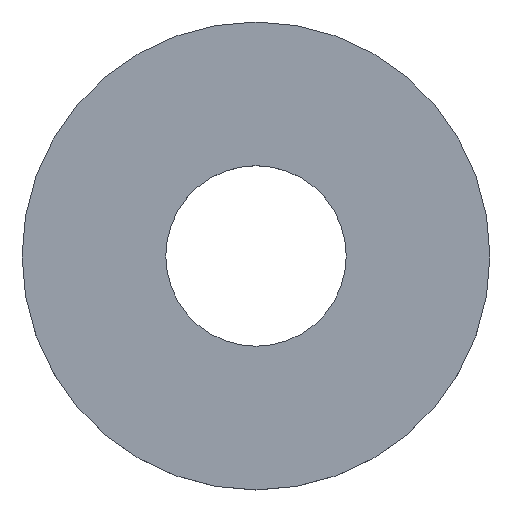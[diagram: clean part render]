
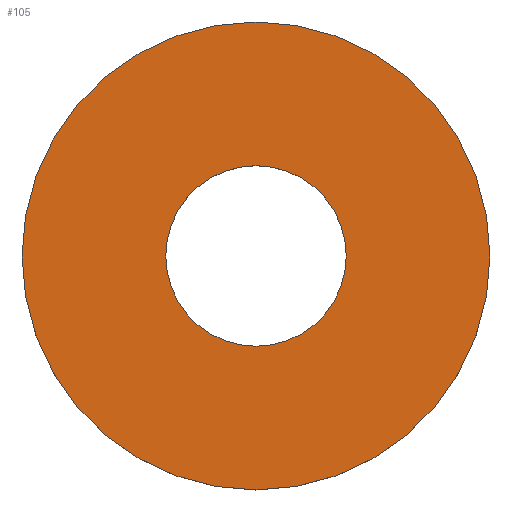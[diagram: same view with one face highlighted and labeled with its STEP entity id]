
A CAD part, top view. The second image highlights one B-rep face of the part: STEP entity #105.
In plain terms, the highlighted planar face has unit normal (0, 0, 1).
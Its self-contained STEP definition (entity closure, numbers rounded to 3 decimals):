
#21 = EDGE_CURVE('',#22,#22,#24,.T.);
#22 = VERTEX_POINT('',#23);
#23 = CARTESIAN_POINT('',(3.5,0.,-18.4));
#24 = SURFACE_CURVE('',#25,(#30,#42),.PCURVE_S1.);
#25 = CIRCLE('',#26,3.5);
#26 = AXIS2_PLACEMENT_3D('',#27,#28,#29);
#27 = CARTESIAN_POINT('',(0.,0.,-18.4));
#28 = DIRECTION('',(0.,0.,1.));
#29 = DIRECTION('',(1.,0.,-0.));
#30 = PCURVE('',#31,#36);
#31 = CYLINDRICAL_SURFACE('',#32,3.5);
#32 = AXIS2_PLACEMENT_3D('',#33,#34,#35);
#33 = CARTESIAN_POINT('',(0.,0.,-18.9));
#34 = DIRECTION('',(0.,0.,1.));
#35 = DIRECTION('',(1.,0.,-0.));
#36 = DEFINITIONAL_REPRESENTATION('',(#37),#41);
#37 = LINE('',#38,#39);
#38 = CARTESIAN_POINT('',(0.,0.5));
#39 = VECTOR('',#40,1.);
#40 = DIRECTION('',(1.,0.));
#41 = ( GEOMETRIC_REPRESENTATION_CONTEXT(2) 
PARAMETRIC_REPRESENTATION_CONTEXT() REPRESENTATION_CONTEXT('2D SPACE',''
  ) );
#42 = PCURVE('',#43,#48);
#43 = PLANE('',#44);
#44 = AXIS2_PLACEMENT_3D('',#45,#46,#47);
#45 = CARTESIAN_POINT('',(0.,0.,-18.4));
#46 = DIRECTION('',(0.,0.,1.));
#47 = DIRECTION('',(1.,0.,-0.));
#48 = DEFINITIONAL_REPRESENTATION('',(#49),#53);
#49 = CIRCLE('',#50,3.5);
#50 = AXIS2_PLACEMENT_2D('',#51,#52);
#51 = CARTESIAN_POINT('',(0.,0.));
#52 = DIRECTION('',(1.,0.));
#53 = ( GEOMETRIC_REPRESENTATION_CONTEXT(2) 
PARAMETRIC_REPRESENTATION_CONTEXT() REPRESENTATION_CONTEXT('2D SPACE',''
  ) );
#105 = ADVANCED_FACE('',(#106,#109),#43,.T.);
#106 = FACE_BOUND('',#107,.T.);
#107 = EDGE_LOOP('',(#108));
#108 = ORIENTED_EDGE('',*,*,#21,.T.);
#109 = FACE_BOUND('',#110,.T.);
#110 = EDGE_LOOP('',(#111));
#111 = ORIENTED_EDGE('',*,*,#112,.F.);
#112 = EDGE_CURVE('',#113,#113,#115,.T.);
#113 = VERTEX_POINT('',#114);
#114 = CARTESIAN_POINT('',(1.35,0.,-18.4));
#115 = SURFACE_CURVE('',#116,(#121,#128),.PCURVE_S1.);
#116 = CIRCLE('',#117,1.35);
#117 = AXIS2_PLACEMENT_3D('',#118,#119,#120);
#118 = CARTESIAN_POINT('',(0.,0.,-18.4));
#119 = DIRECTION('',(0.,0.,1.));
#120 = DIRECTION('',(1.,0.,-0.));
#121 = PCURVE('',#43,#122);
#122 = DEFINITIONAL_REPRESENTATION('',(#123),#127);
#123 = CIRCLE('',#124,1.35);
#124 = AXIS2_PLACEMENT_2D('',#125,#126);
#125 = CARTESIAN_POINT('',(0.,0.));
#126 = DIRECTION('',(1.,0.));
#127 = ( GEOMETRIC_REPRESENTATION_CONTEXT(2) 
PARAMETRIC_REPRESENTATION_CONTEXT() REPRESENTATION_CONTEXT('2D SPACE',''
  ) );
#128 = PCURVE('',#129,#134);
#129 = CYLINDRICAL_SURFACE('',#130,1.35);
#130 = AXIS2_PLACEMENT_3D('',#131,#132,#133);
#131 = CARTESIAN_POINT('',(0.,0.,-18.91));
#132 = DIRECTION('',(0.,0.,1.));
#133 = DIRECTION('',(1.,0.,-0.));
#134 = DEFINITIONAL_REPRESENTATION('',(#135),#139);
#135 = LINE('',#136,#137);
#136 = CARTESIAN_POINT('',(0.,0.51));
#137 = VECTOR('',#138,1.);
#138 = DIRECTION('',(1.,0.));
#139 = ( GEOMETRIC_REPRESENTATION_CONTEXT(2) 
PARAMETRIC_REPRESENTATION_CONTEXT() REPRESENTATION_CONTEXT('2D SPACE',''
  ) );
